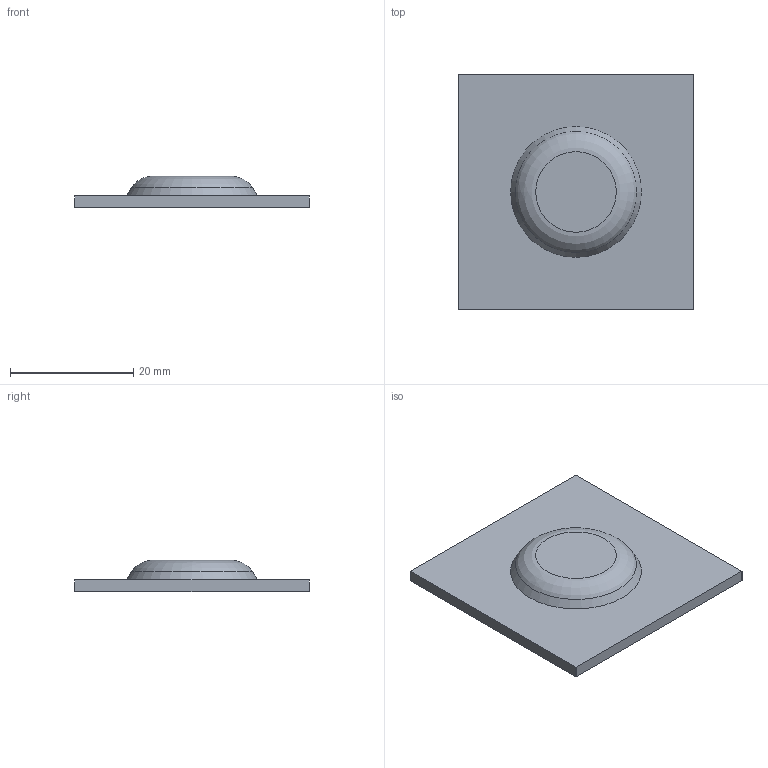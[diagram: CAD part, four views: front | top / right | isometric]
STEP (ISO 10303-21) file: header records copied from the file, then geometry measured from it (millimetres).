
FILE_DESCRIPTION((''),'1');
FILE_NAME('C:/Users/ericfrey/Desktop/407-5949-00 REV 02 DIMPLE 1 UP 1 DOWN.stp', '2015-10-12T19:45:45',(''), (''), 'KCM Version 1.1.1442.0', 'Kubotek KeyCreator', '');
FILE_SCHEMA(('AUTOMOTIVE_DESIGN'));
Length unit declared in the file: inch
Bounding box: 38.1 x 38.1 x 5.08 mm (x, y, z)
Volume: 5838.9 mm3; surface area: 6710.7 mm2
Topology: 2 solids, 2 shells, 26 faces, 60 edges, 42 vertices
Faces by surface type: plane 16, torus 6, cone 4
Entity records: 735 total; most frequent: DIRECTION 122, ORIENTED_EDGE 120, CARTESIAN_POINT 117, EDGE_CURVE 60, AXIS2_PLACEMENT_3D 47, VERTEX_POINT 42, EDGE_LOOP 30, VECTOR 28
